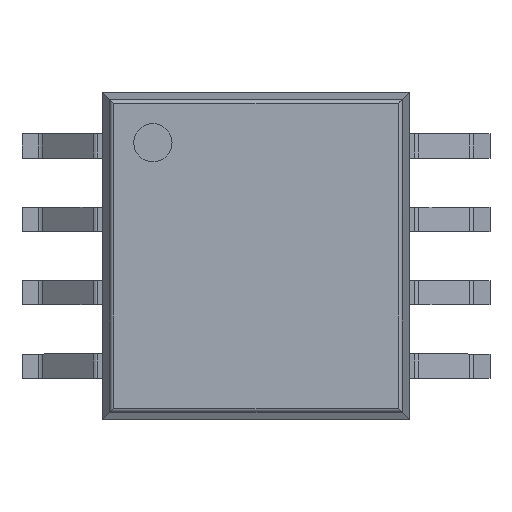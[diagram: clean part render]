
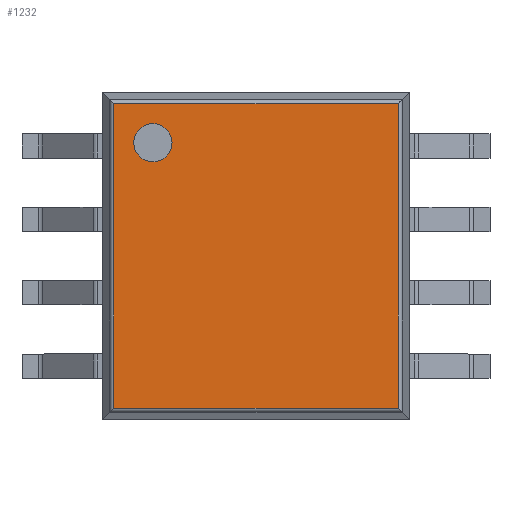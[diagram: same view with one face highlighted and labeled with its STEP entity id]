
A CAD part, top view. The second image highlights one B-rep face of the part: STEP entity #1232.
In plain terms, the highlighted planar face has unit normal (0, 0, 1).
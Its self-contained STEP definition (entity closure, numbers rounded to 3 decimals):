
#829 = CYLINDRICAL_SURFACE('',#830,0.07);
#830 = AXIS2_PLACEMENT_3D('',#831,#832,#833);
#831 = CARTESIAN_POINT('',(-2.459,-2.693,1.66));
#832 = DIRECTION('',(0.,1.,0.));
#833 = DIRECTION('',(-0.983,0.,0.184));
#971 = CYLINDRICAL_SURFACE('',#972,0.07);
#972 = AXIS2_PLACEMENT_3D('',#973,#974,#975);
#973 = CARTESIAN_POINT('',(-2.518,-2.634,1.66));
#974 = DIRECTION('',(1.,0.,0.));
#975 = DIRECTION('',(0.,-0.983,0.184));
#987 = VERTEX_POINT('',#988);
#988 = CARTESIAN_POINT('',(-2.459,-2.634,1.73));
#1022 = EDGE_CURVE('',#987,#1023,#1025,.T.);
#1023 = VERTEX_POINT('',#1024);
#1024 = CARTESIAN_POINT('',(-2.459,2.634,1.73));
#1025 = SURFACE_CURVE('',#1026,(#1030,#1037),.PCURVE_S1.);
#1026 = LINE('',#1027,#1028);
#1027 = CARTESIAN_POINT('',(-2.459,-2.693,1.73));
#1028 = VECTOR('',#1029,1.);
#1029 = DIRECTION('',(0.,1.,0.));
#1030 = PCURVE('',#829,#1031);
#1031 = DEFINITIONAL_REPRESENTATION('',(#1032),#1036);
#1032 = LINE('',#1033,#1034);
#1033 = CARTESIAN_POINT('',(1.385,0.));
#1034 = VECTOR('',#1035,1.);
#1035 = DIRECTION('',(0.,1.));
#1036 = ( GEOMETRIC_REPRESENTATION_CONTEXT(2) 
PARAMETRIC_REPRESENTATION_CONTEXT() REPRESENTATION_CONTEXT('2D SPACE',''
  ) );
#1037 = PCURVE('',#1038,#1043);
#1038 = PLANE('',#1039);
#1039 = AXIS2_PLACEMENT_3D('',#1040,#1041,#1042);
#1040 = CARTESIAN_POINT('',(-2.65,-2.825,1.73));
#1041 = DIRECTION('',(0.,0.,1.));
#1042 = DIRECTION('',(1.,0.,0.));
#1043 = DEFINITIONAL_REPRESENTATION('',(#1044),#1048);
#1044 = LINE('',#1045,#1046);
#1045 = CARTESIAN_POINT('',(0.191,0.133));
#1046 = VECTOR('',#1047,1.);
#1047 = DIRECTION('',(0.,1.));
#1048 = ( GEOMETRIC_REPRESENTATION_CONTEXT(2) 
PARAMETRIC_REPRESENTATION_CONTEXT() REPRESENTATION_CONTEXT('2D SPACE',''
  ) );
#1071 = CYLINDRICAL_SURFACE('',#1072,0.07);
#1072 = AXIS2_PLACEMENT_3D('',#1073,#1074,#1075);
#1073 = CARTESIAN_POINT('',(-2.518,2.634,1.66));
#1074 = DIRECTION('',(1.,0.,0.));
#1075 = DIRECTION('',(0.,0.,1.));
#1159 = CYLINDRICAL_SURFACE('',#1160,0.07);
#1160 = AXIS2_PLACEMENT_3D('',#1161,#1162,#1163);
#1161 = CARTESIAN_POINT('',(2.459,-2.693,1.66));
#1162 = DIRECTION('',(0.,1.,0.));
#1163 = DIRECTION('',(0.,0.,1.));
#1175 = EDGE_CURVE('',#987,#1176,#1178,.T.);
#1176 = VERTEX_POINT('',#1177);
#1177 = CARTESIAN_POINT('',(2.459,-2.634,1.73));
#1178 = SURFACE_CURVE('',#1179,(#1183,#1190),.PCURVE_S1.);
#1179 = LINE('',#1180,#1181);
#1180 = CARTESIAN_POINT('',(-2.518,-2.634,1.73));
#1181 = VECTOR('',#1182,1.);
#1182 = DIRECTION('',(1.,0.,0.));
#1183 = PCURVE('',#971,#1184);
#1184 = DEFINITIONAL_REPRESENTATION('',(#1185),#1189);
#1185 = LINE('',#1186,#1187);
#1186 = CARTESIAN_POINT('',(-1.385,0.));
#1187 = VECTOR('',#1188,1.);
#1188 = DIRECTION('',(-0.,1.));
#1189 = ( GEOMETRIC_REPRESENTATION_CONTEXT(2) 
PARAMETRIC_REPRESENTATION_CONTEXT() REPRESENTATION_CONTEXT('2D SPACE',''
  ) );
#1190 = PCURVE('',#1038,#1191);
#1191 = DEFINITIONAL_REPRESENTATION('',(#1192),#1196);
#1192 = LINE('',#1193,#1194);
#1193 = CARTESIAN_POINT('',(0.133,0.191));
#1194 = VECTOR('',#1195,1.);
#1195 = DIRECTION('',(1.,0.));
#1196 = ( GEOMETRIC_REPRESENTATION_CONTEXT(2) 
PARAMETRIC_REPRESENTATION_CONTEXT() REPRESENTATION_CONTEXT('2D SPACE',''
  ) );
#1232 = ADVANCED_FACE('',(#1233,#1281),#1038,.T.);
#1233 = FACE_BOUND('',#1234,.T.);
#1234 = EDGE_LOOP('',(#1235,#1236,#1237,#1260));
#1235 = ORIENTED_EDGE('',*,*,#1022,.F.);
#1236 = ORIENTED_EDGE('',*,*,#1175,.T.);
#1237 = ORIENTED_EDGE('',*,*,#1238,.T.);
#1238 = EDGE_CURVE('',#1176,#1239,#1241,.T.);
#1239 = VERTEX_POINT('',#1240);
#1240 = CARTESIAN_POINT('',(2.459,2.634,1.73));
#1241 = SURFACE_CURVE('',#1242,(#1246,#1253),.PCURVE_S1.);
#1242 = LINE('',#1243,#1244);
#1243 = CARTESIAN_POINT('',(2.459,-2.693,1.73));
#1244 = VECTOR('',#1245,1.);
#1245 = DIRECTION('',(0.,1.,0.));
#1246 = PCURVE('',#1038,#1247);
#1247 = DEFINITIONAL_REPRESENTATION('',(#1248),#1252);
#1248 = LINE('',#1249,#1250);
#1249 = CARTESIAN_POINT('',(5.109,0.133));
#1250 = VECTOR('',#1251,1.);
#1251 = DIRECTION('',(0.,1.));
#1252 = ( GEOMETRIC_REPRESENTATION_CONTEXT(2) 
PARAMETRIC_REPRESENTATION_CONTEXT() REPRESENTATION_CONTEXT('2D SPACE',''
  ) );
#1253 = PCURVE('',#1159,#1254);
#1254 = DEFINITIONAL_REPRESENTATION('',(#1255),#1259);
#1255 = LINE('',#1256,#1257);
#1256 = CARTESIAN_POINT('',(0.,0.));
#1257 = VECTOR('',#1258,1.);
#1258 = DIRECTION('',(0.,1.));
#1259 = ( GEOMETRIC_REPRESENTATION_CONTEXT(2) 
PARAMETRIC_REPRESENTATION_CONTEXT() REPRESENTATION_CONTEXT('2D SPACE',''
  ) );
#1260 = ORIENTED_EDGE('',*,*,#1261,.F.);
#1261 = EDGE_CURVE('',#1023,#1239,#1262,.T.);
#1262 = SURFACE_CURVE('',#1263,(#1267,#1274),.PCURVE_S1.);
#1263 = LINE('',#1264,#1265);
#1264 = CARTESIAN_POINT('',(-2.518,2.634,1.73));
#1265 = VECTOR('',#1266,1.);
#1266 = DIRECTION('',(1.,0.,0.));
#1267 = PCURVE('',#1038,#1268);
#1268 = DEFINITIONAL_REPRESENTATION('',(#1269),#1273);
#1269 = LINE('',#1270,#1271);
#1270 = CARTESIAN_POINT('',(0.133,5.459));
#1271 = VECTOR('',#1272,1.);
#1272 = DIRECTION('',(1.,0.));
#1273 = ( GEOMETRIC_REPRESENTATION_CONTEXT(2) 
PARAMETRIC_REPRESENTATION_CONTEXT() REPRESENTATION_CONTEXT('2D SPACE',''
  ) );
#1274 = PCURVE('',#1071,#1275);
#1275 = DEFINITIONAL_REPRESENTATION('',(#1276),#1280);
#1276 = LINE('',#1277,#1278);
#1277 = CARTESIAN_POINT('',(-0.,0.));
#1278 = VECTOR('',#1279,1.);
#1279 = DIRECTION('',(-0.,1.));
#1280 = ( GEOMETRIC_REPRESENTATION_CONTEXT(2) 
PARAMETRIC_REPRESENTATION_CONTEXT() REPRESENTATION_CONTEXT('2D SPACE',''
  ) );
#1281 = FACE_BOUND('',#1282,.T.);
#1282 = EDGE_LOOP('',(#1283));
#1283 = ORIENTED_EDGE('',*,*,#1284,.F.);
#1284 = EDGE_CURVE('',#1285,#1285,#1287,.T.);
#1285 = VERTEX_POINT('',#1286);
#1286 = CARTESIAN_POINT('',(-1.454,1.96,1.73));
#1287 = SURFACE_CURVE('',#1288,(#1293,#1300),.PCURVE_S1.);
#1288 = CIRCLE('',#1289,0.331);
#1289 = AXIS2_PLACEMENT_3D('',#1290,#1291,#1292);
#1290 = CARTESIAN_POINT('',(-1.785,1.96,1.73));
#1291 = DIRECTION('',(0.,0.,1.));
#1292 = DIRECTION('',(1.,0.,0.));
#1293 = PCURVE('',#1038,#1294);
#1294 = DEFINITIONAL_REPRESENTATION('',(#1295),#1299);
#1295 = CIRCLE('',#1296,0.331);
#1296 = AXIS2_PLACEMENT_2D('',#1297,#1298);
#1297 = CARTESIAN_POINT('',(0.865,4.785));
#1298 = DIRECTION('',(1.,0.));
#1299 = ( GEOMETRIC_REPRESENTATION_CONTEXT(2) 
PARAMETRIC_REPRESENTATION_CONTEXT() REPRESENTATION_CONTEXT('2D SPACE',''
  ) );
#1300 = PCURVE('',#1301,#1306);
#1301 = CYLINDRICAL_SURFACE('',#1302,0.331);
#1302 = AXIS2_PLACEMENT_3D('',#1303,#1304,#1305);
#1303 = CARTESIAN_POINT('',(-1.785,1.96,1.557));
#1304 = DIRECTION('',(0.,0.,1.));
#1305 = DIRECTION('',(1.,0.,0.));
#1306 = DEFINITIONAL_REPRESENTATION('',(#1307),#1310);
#1307 = B_SPLINE_CURVE_WITH_KNOTS('',1,(#1308,#1309),.UNSPECIFIED.,.F.,
  .F.,(2,2),(0.,6.283),.PIECEWISE_BEZIER_KNOTS.);
#1308 = CARTESIAN_POINT('',(0.,0.173));
#1309 = CARTESIAN_POINT('',(6.283,0.173));
#1310 = ( GEOMETRIC_REPRESENTATION_CONTEXT(2) 
PARAMETRIC_REPRESENTATION_CONTEXT() REPRESENTATION_CONTEXT('2D SPACE',''
  ) );
